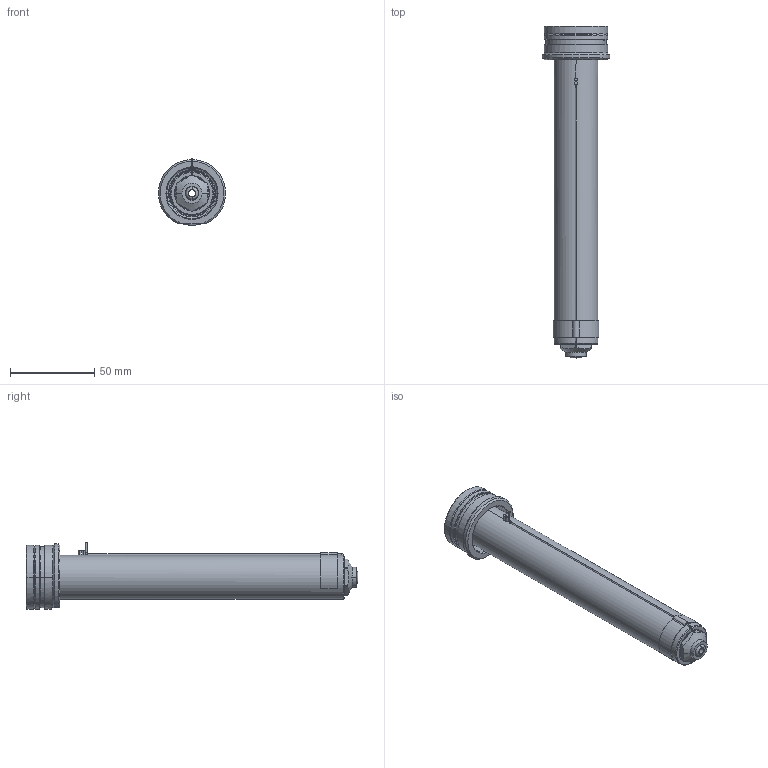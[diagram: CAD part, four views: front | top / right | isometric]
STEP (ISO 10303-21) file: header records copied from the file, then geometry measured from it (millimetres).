
FILE_DESCRIPTION((''),'2;1');
FILE_NAME('EO08_VG-BL_WR_180_SW','2024-02-19T13:07:51',('sundharh'),(''),'CREO PARAMETRIC BY PTC INC, 2023154','CREO PARAMETRIC BY PTC INC, 2023154','');
FILE_SCHEMA(('CONFIG_CONTROL_DESIGN'));
Length unit declared in the file: millimetre
Products named in the file (1): EO08_VG-BL_WR_180_SW
Bounding box: 39.88 x 197.2 x 39.52 mm (x, y, z)
Volume: 102100.7 mm3; surface area: 27852.9 mm2
Topology: 1 solids, 1 shells, 197 faces, 483 edges, 292 vertices
Faces by surface type: cylinder 72, plane 45, cone 39, torus 27, bspline 12, sphere 2
Entity records: 7225 total; most frequent: CARTESIAN_POINT 2492, DIRECTION 1055, ORIENTED_EDGE 958, EDGE_CURVE 479, AXIS2_PLACEMENT_3D 442, VERTEX_POINT 292, CIRCLE 257, EDGE_LOOP 213
